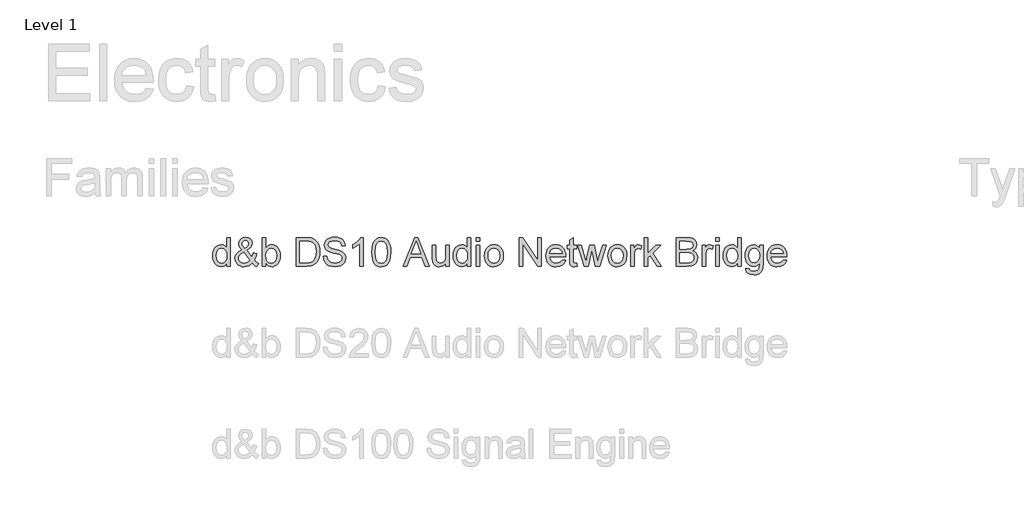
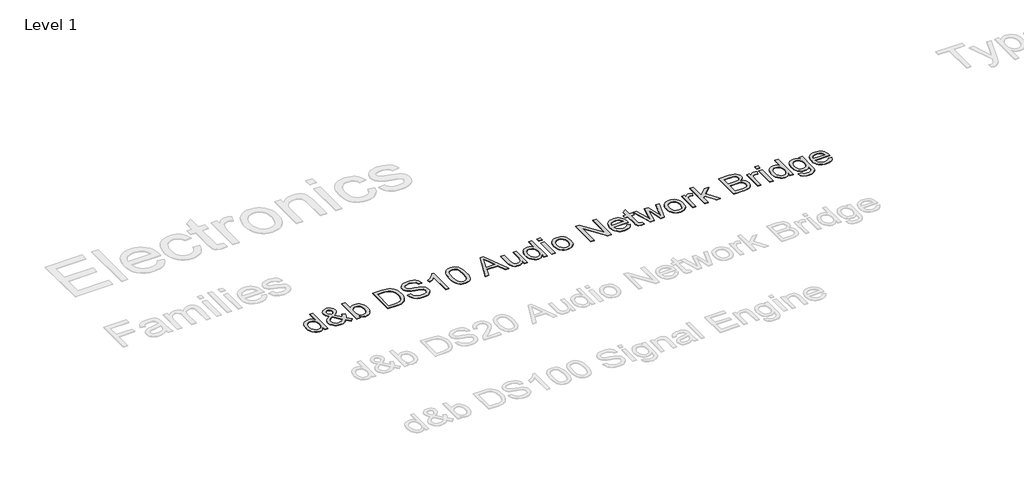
# One storey, part 4 of 14: 1 proxy.
"""IFC4 building model written with IfcOpenShell, lengths in millimetres."""

from ifc_helpers import new_model, si_unit, origin, origin_with_axes, place, context, project, spatial, polyline, outline, extrude, element, save

model = new_model("IFC4")

# Units and contexts
model_context = context("Model", 3, world=origin())
ifc_project = project(units=[si_unit("LENGTHUNIT", "METRE", prefix="MILLI")], contexts=[model_context])

# Site, building, storey
site = spatial("IfcSite", under=ifc_project)
building = spatial("IfcBuilding", under=site)
storey = spatial("IfcBuildingStorey", under=building, Name="Level 1", Elevation=0.0)

# Proxy
placement = place(None, origin())
element("IfcBuildingElementProxy", 1, Name="300mm Arial", ObjectType="300mm Arial", at=placement, inside=storey, context=model_context, shape_type="SweptSolid", body=[
    extrude(outline(polyline([(-19163.9314906, 1461.8556145), (-19163.9314906, 1497.3930152), (-19175.2024752, 1479.7852632), (-19188.8554958, 1467.2082975), (-19204.8905522, 1459.6621181), (-19223.3076446, 1457.146725), (-19247.6614327, 1460.7887567), (-19269.9550816, 1471.714852), (-19288.827428, 1489.1616556), (-19302.9173084, 1512.3658124), (-19311.691294, 1540.3892234), (-19314.6159558, 1572.2937895), (-19311.9212202, 1603.8028823), (-19303.8370134, 1632.2585547), (-19290.3725323, 1656.0421257), (-19271.5369742, 1673.5349145), (-19248.7558816, 1684.2954629), (-19223.4547974, 1687.8823123), (-19205.0239095, 1685.3163354), (-19188.7267371, 1677.6184047), (-19174.9127682, 1665.8185897), (-19163.9314906, 1650.94696), (-19163.9314906, 1763.224545), (-19126.2603743, 1763.224545), (-19126.2603743, 1461.8556145), (-19163.9314906, 1461.8556145)]), holes=[polyline([(-19276.9448395, 1572.4409423), (-19272.6958025, 1538.3658724), (-19259.9486913, 1514.131646), (-19241.4258329, 1499.6462925), (-19219.8495539, 1494.8178413), (-19198.2824719, 1499.4255633), (-19180.228663, 1513.2487292), (-19168.0057837, 1536.5448566), (-19163.9314906, 1569.5714627), (-19168.0793601, 1605.6790805), (-19180.5229686, 1630.7134503), (-19199.03663, 1645.3367596), (-19221.3946582, 1650.211196), (-19243.1916665, 1645.5298976), (-19261.0523373, 1631.4860025), (-19272.971714, 1607.3621406), (-19276.9448395, 1572.4409423)])]), origin_with_axes(), (0.0, 0.0, 1.0), 5.0),
    extrude(outline(polyline([(-18896.9227385, 1499.0852724), (-18916.0709963, 1480.7371579), (-18936.8747232, 1467.6313618), (-18959.3707072, 1459.7678842), (-18983.5957366, 1457.146725), (-19005.5766858, 1459.0873025), (-19025.166402, 1464.9090351), (-19042.3648853, 1474.6119227), (-19057.1721356, 1488.1959654), (-19073.6716431, 1514.9961687), (-19079.1714789, 1544.7762162), (-19074.7476979, 1571.1717494), (-19061.4763549, 1594.881744), (-19039.4126323, 1615.8878059), (-19008.6117122, 1634.171541), (-19034.9152749, 1672.2841157), (-19041.5003626, 1700.537453), (-19036.3132265, 1725.9764929), (-19020.7518181, 1747.8470776), (-18997.3361291, 1762.9118453), (-18968.5861512, 1767.9334345), (-18941.2341248, 1763.1325745), (-18919.3635402, 1748.7299943), (-18905.0161424, 1727.5951737), (-18900.2336765, 1702.5975921), (-18903.7745407, 1681.6099243), (-18914.3971333, 1662.2041491), (-18932.1014543, 1644.3802664), (-18956.8875037, 1628.1382763), (-18902.367392, 1560.22726), (-18893.0783716, 1579.6330353), (-18886.1070078, 1601.9450783), (-18848.4358915, 1593.778098), (-18860.0241744, 1558.8844907), (-18875.070548, 1531.7531936), (-18853.6598159, 1506.7740061), (-18829.6003334, 1486.1358262), (-18857.8536706, 1457.146725), (-18877.0755049, 1474.7314843), (-18896.9227385, 1499.0852724)]), holes=[polyline([(-18922.1594434, 1526.2349637), (-18989.4082721, 1610.185635), (-19015.0956324, 1593.7964921), (-19030.7949965, 1578.6213598), (-19038.8240211, 1564.1268092), (-19041.5003626, 1549.7794113), (-19037.8399368, 1532.010711), (-19026.8586592, 1513.579823), (-19009.1635352, 1499.5083367), (-18985.3615701, 1494.8178413), (-18968.3194367, 1497.0067391), (-18950.7438744, 1503.5734328), (-18934.6766283, 1513.6166112), (-18922.1594434, 1526.2349637)]), polyline([(-18975.9437911, 1651.9034532), (-18956.2437102, 1664.402244), (-18944.9681271, 1675.2639599), (-18939.6706263, 1685.8313702), (-18937.9047928, 1697.4472442), (-18940.2316464, 1710.6082226), (-18947.2122072, 1721.1020565), (-18957.6876471, 1727.9722528), (-18970.4991375, 1730.2623182), (-18983.5865395, 1727.9906469), (-18994.3011026, 1721.1756329), (-19001.4472104, 1711.0864692), (-19003.8292463, 1698.9923486), (-19000.5918847, 1685.1967738), (-18990.8062237, 1669.8560946), (-18975.9437911, 1651.9034532)])]), origin_with_axes(), (0.0, 0.0, 1.0), 5.0),
    extrude(outline(polyline([(-18754.2581008, 1461.8556145), (-18791.9292171, 1461.8556145), (-18791.9292171, 1763.224545), (-18754.2581008, 1763.224545), (-18754.2581008, 1651.4619948), (-18741.8696746, 1667.3958837), (-18727.8809617, 1678.777233), (-18712.2919622, 1685.6060425), (-18695.1026759, 1687.8823123), (-18675.6969007, 1685.8313702), (-18657.3579832, 1679.6785438), (-18641.1343873, 1669.8101093), (-18628.0745764, 1656.6123427), (-18617.8382599, 1640.2140028), (-18610.0851469, 1620.7438482), (-18605.2015134, 1599.0112194), (-18603.5736355, 1575.8254566), (-18605.2589949, 1549.0712385), (-18610.3150731, 1525.5359879), (-18618.7418701, 1505.2197047), (-18630.5393858, 1488.122389), (-18644.7005433, 1474.570536), (-18660.2182658, 1464.890641), (-18677.092553, 1459.082704), (-18695.3234051, 1457.146725), (-18713.0783099, 1459.643724), (-18728.8190608, 1467.1347211), (-18742.5456577, 1479.6197163), (-18754.2581008, 1497.0987096), (-18754.2581008, 1461.8556145)]), holes=[polyline([(-18754.2581008, 1574.059623), (-18751.6829268, 1542.6425006), (-18743.9574049, 1521.3789213), (-18734.8293329, 1509.7584488), (-18724.2205359, 1501.4581113), (-18712.1310138, 1496.4779088), (-18698.5607667, 1494.8178413), (-18676.8189408, 1499.7106718), (-18658.2409, 1514.3891634), (-18645.4937889, 1538.7613456), (-18641.2447519, 1572.7352478), (-18645.3190449, 1607.2057908), (-18657.5419242, 1631.3020615), (-18675.5405509, 1645.4839124), (-18696.9420859, 1650.211196), (-18718.6839118, 1645.3183655), (-18737.2619526, 1630.6398739), (-18750.0090637, 1606.7091501), (-18754.2581008, 1574.059623)])]), origin_with_axes(), (0.0, 0.0, 1.0), 5.0),
    extrude(outline(polyline([(-18438.7625017, 1461.8556145), (-18438.7625017, 1763.224545), (-18334.7990499, 1763.224545), (-18281.0147022, 1758.8835374), (-18256.9920079, 1750.514222), (-18236.72171, 1737.3256525), (-18215.8811949, 1714.369816), (-18201.0371564, 1685.8221732), (-18192.1528062, 1652.234547), (-18189.1913562, 1614.1587605), (-18191.1963131, 1581.8127361), (-18197.2111837, 1553.3478667), (-18206.3714454, 1529.1136403), (-18217.8125754, 1509.4595447), (-18230.9827508, 1493.9441215), (-18245.3301486, 1482.1259124), (-18261.802065, 1473.3611239), (-18281.345796, 1467.0059624), (-18329.7958547, 1461.8556145), (-18438.7625017, 1461.8556145)]), holes=[polyline([(-18401.0913854, 1499.5267308), (-18334.4311679, 1499.5267308), (-18306.8584123, 1500.8878942), (-18285.9443209, 1504.9713843), (-18270.1621833, 1511.538078), (-18257.9852893, 1520.3488517), (-18244.8978873, 1536.6552212), (-18235.066241, 1557.7624506), (-18228.9134146, 1583.7625107), (-18226.8624725, 1614.7473717), (-18230.8815833, 1655.8030024), (-18242.9389157, 1686.1164788), (-18260.7536013, 1706.9385997), (-18282.0447718, 1719.5201639), (-18303.7130213, 1724.0451125), (-18335.4612375, 1725.5534286), (-18401.0913854, 1725.5534286), (-18401.0913854, 1499.5267308)])]), origin_with_axes(), (0.0, 0.0, 1.0), 5.0),
    extrude(outline(polyline([(-18151.5202399, 1565.4511843), (-18113.8491236, 1565.4511843), (-18109.5265101, 1544.54629), (-18101.7090177, 1527.7432798), (-18089.5137296, 1514.4075575), (-18072.0577289, 1503.9045266), (-18050.7205732, 1497.0895126), (-18026.8818199, 1494.8178413), (-18005.8941521, 1496.5376896), (-17987.5184464, 1501.6972346), (-17972.6284227, 1509.8642149), (-17962.0978006, 1520.6063691), (-17955.8346096, 1532.939613), (-17953.7468793, 1545.8798622), (-17955.3103777, 1558.4890176), (-17960.0008732, 1569.3875217), (-17969.5290169, 1578.6857391), (-17985.60546, 1586.4940345), (-18040.4566655, 1600.8782205), (-18076.4631158, 1610.3971671), (-18099.5017258, 1619.4562612), (-18118.2545105, 1632.129796), (-18131.5442475, 1647.4888693), (-18139.4629075, 1665.2023873), (-18142.1024608, 1684.9392564), (-18138.8375081, 1707.002979), (-18129.04265, 1727.5767796), (-18112.9754038, 1745.0143862), (-18090.8932871, 1757.6695268), (-18064.3873893, 1765.3674576), (-18035.0488002, 1767.9334345), (-18003.2637958, 1765.2478959), (-17975.451917, 1757.1912802), (-17952.6064451, 1743.9291343), (-17935.7206615, 1725.627005), (-17925.0336895, 1703.4253266), (-17920.7846525, 1678.4645333), (-17958.4557688, 1678.4645333), (-17965.3719503, 1700.9421232), (-17979.7929245, 1717.1657192), (-18002.3256967, 1726.9881684), (-18033.5772722, 1730.2623182), (-18065.5646117, 1727.0249566), (-18087.5087727, 1717.312872), (-18100.2007015, 1703.0206564), (-18104.4313445, 1686.0429024), (-18101.4331062, 1671.5667459), (-18092.4383914, 1659.9232807), (-18071.1748121, 1649.5122202), (-18030.9285219, 1638.8804306), (-17989.3946446, 1628.7820698), (-17964.2683043, 1619.971296), (-17942.7931929, 1606.3044799), (-17927.8111986, 1589.4370904), (-17919.0096219, 1569.5530686), (-17916.075763, 1546.8363554), (-17919.4510803, 1523.6138044), (-17929.5770322, 1501.770811), (-17946.0397515, 1482.972041), (-17968.4253709, 1468.8821606), (-17995.3451359, 1460.0805839), (-18025.4102919, 1457.146725), (-18062.3180531, 1460.3105101), (-18092.6959088, 1469.8018656), (-18116.8933471, 1485.6575796), (-18135.2598557, 1507.9144403), (-18147.0504736, 1535.0273433), (-18151.5202399, 1565.4511843)])), origin_with_axes(), (0.0, 0.0, 1.0), 5.0),
    extrude(outline(polyline([(-17732.429071, 1461.8556145), (-17770.1001873, 1461.8556145), (-17770.1001873, 1696.7114802), (-17805.7847408, 1671.2908344), (-17845.4424199, 1652.2713352), (-17845.4424199, 1687.8823123), (-17815.8555104, 1703.9771496), (-17790.2233324, 1723.1254075), (-17770.0174138, 1743.4876759), (-17756.7092826, 1763.224545), (-17732.429071, 1763.224545), (-17732.429071, 1461.8556145)])), origin_with_axes(), (0.0, 0.0, 1.0), 5.0),
    extrude(outline(polyline([(-17642.9601697, 1610.1120586), (-17640.1918577, 1658.3505852), (-17631.8869217, 1696.8218448), (-17618.1281351, 1726.1144487), (-17598.9982713, 1746.817008), (-17574.3593747, 1759.1226607), (-17544.0734894, 1763.224545), (-17520.8601355, 1760.7965238), (-17500.0748028, 1753.5124603), (-17482.6923785, 1741.657463), (-17469.68775, 1725.5166404), (-17459.8653007, 1705.2279484), (-17452.0294142, 1680.9293426), (-17446.8974604, 1650.0732403), (-17445.1868091, 1610.1120586), (-17447.92753, 1562.1494434), (-17456.1496926, 1523.7701543), (-17469.8257058, 1494.4499593), (-17488.9279784, 1473.6646265), (-17513.6220573, 1461.2762004), (-17544.0734894, 1457.146725), (-17564.822034, 1458.9401497), (-17583.2161337, 1464.3204239), (-17599.2557887, 1473.2875475), (-17612.9409989, 1485.8415206), (-17626.0743862, 1508.5352412), (-17635.455377, 1536.811571), (-17641.0839716, 1570.6705102), (-17642.9601697, 1610.1120586)]), holes=[polyline([(-17605.2890534, 1610.185635), (-17600.8744695, 1550.9290426), (-17595.3562396, 1530.6610439), (-17587.6307177, 1516.6332436), (-17567.9122427, 1500.2716918), (-17544.0734894, 1494.8178413), (-17520.2347361, 1500.2900859), (-17500.5162612, 1516.70682), (-17492.7907393, 1530.7576129), (-17487.2725094, 1551.0210131), (-17482.8579254, 1610.185635), (-17487.1253566, 1668.1086551), (-17492.4596455, 1688.3099752), (-17499.92765, 1702.6711685), (-17519.6093368, 1719.8328636), (-17544.5149478, 1725.5534286), (-17568.0961837, 1720.5134453), (-17587.0421065, 1705.3934953), (-17595.0251458, 1689.7585105), (-17600.7273167, 1668.6788722), (-17605.2890534, 1610.185635)])]), origin_with_axes(), (0.0, 0.0, 1.0), 5.0),
    extrude(outline(polyline([(-17315.3980412, 1461.8556145), (-17195.1006288, 1763.224545), (-17163.0213188, 1763.224545), (-17042.7974828, 1461.8556145), (-17082.6023147, 1461.8556145), (-17117.0360694, 1556.0334053), (-17241.233031, 1556.0334053), (-17275.6667858, 1461.8556145), (-17315.3980412, 1461.8556145)]), holes=[polyline([(-17227.400668, 1593.7045216), (-17130.7948561, 1593.7045216), (-17158.0181237, 1667.7959554), (-17179.1345502, 1725.5534286), (-17197.896532, 1674.2706785), (-17227.400668, 1593.7045216)])]), origin_with_axes(), (0.0, 0.0, 1.0), 5.0),
    extrude(outline(polyline([(-16865.9933959, 1461.8556145), (-16865.9933959, 1499.8946128), (-16879.6234238, 1481.1924119), (-16895.4975319, 1467.8336969), (-16913.6157202, 1459.818468), (-16933.9779886, 1457.146725), (-16952.3261031, 1459.0229231), (-16969.4050248, 1464.6515177), (-16983.7340285, 1473.1128036), (-16993.8323892, 1483.4870758), (-17005.0527901, 1511.2253783), (-17007.2600821, 1546.2477442), (-17007.2600821, 1683.1734228), (-16969.5889658, 1683.1734228), (-16969.5889658, 1563.9796564), (-16967.3080974, 1525.5727761), (-16961.8174586, 1512.7612856), (-16952.4088766, 1503.0216098), (-16939.7077507, 1496.8687834), (-16924.3394804, 1494.8178413), (-16908.0882932, 1496.9147686), (-16892.8855698, 1503.2055508), (-16880.3499908, 1513.1107735), (-16872.100237, 1526.0510227), (-16867.5201062, 1543.7737378), (-16865.9933959, 1568.0263583), (-16865.9933959, 1683.1734228), (-16828.3222796, 1683.1734228), (-16828.3222796, 1461.8556145), (-16865.9933959, 1461.8556145)])), origin_with_axes(), (0.0, 0.0, 1.0), 5.0),
    extrude(outline(polyline([(-16639.9666981, 1461.8556145), (-16639.9666981, 1497.3930152), (-16651.2376827, 1479.7852632), (-16664.8907033, 1467.2082975), (-16680.9257597, 1459.6621181), (-16699.3428521, 1457.146725), (-16723.6966402, 1460.7887567), (-16745.9902891, 1471.714852), (-16764.8626355, 1489.1616556), (-16778.9525159, 1512.3658124), (-16787.7265015, 1540.3892234), (-16790.6511633, 1572.2937895), (-16787.9564277, 1603.8028823), (-16779.8722209, 1632.2585547), (-16766.4077398, 1656.0421257), (-16747.5721817, 1673.5349145), (-16724.7910891, 1684.2954629), (-16699.4900049, 1687.8823123), (-16681.059117, 1685.3163354), (-16664.7619446, 1677.6184047), (-16650.9479756, 1665.8185897), (-16639.9666981, 1650.94696), (-16639.9666981, 1763.224545), (-16602.2955818, 1763.224545), (-16602.2955818, 1461.8556145), (-16639.9666981, 1461.8556145)]), holes=[polyline([(-16752.980047, 1572.4409423), (-16748.73101, 1538.3658724), (-16735.9838988, 1514.131646), (-16717.4610404, 1499.6462925), (-16695.8847614, 1494.8178413), (-16674.3176794, 1499.4255633), (-16656.2638705, 1513.2487292), (-16644.0409912, 1536.5448566), (-16639.9666981, 1569.5714627), (-16644.1145676, 1605.6790805), (-16656.5581761, 1630.7134503), (-16675.0718375, 1645.3367596), (-16697.4298657, 1650.211196), (-16719.2268739, 1645.5298976), (-16737.0875448, 1631.4860025), (-16749.0069215, 1607.3621406), (-16752.980047, 1572.4409423)])]), origin_with_axes(), (0.0, 0.0, 1.0), 5.0),
    extrude(outline(polyline([(-16545.7889073, 1461.8556145), (-16545.7889073, 1683.1734228), (-16508.117791, 1683.1734228), (-16508.117791, 1461.8556145), (-16545.7889073, 1461.8556145)])), origin_with_axes(), (0.0, 0.0, 1.0), 5.0),
    extrude(outline(polyline([(-16545.7889073, 1725.5534286), (-16545.7889073, 1763.224545), (-16508.117791, 1763.224545), (-16508.117791, 1725.5534286), (-16545.7889073, 1725.5534286)])), origin_with_axes(), (0.0, 0.0, 1.0), 5.0),
    extrude(outline(polyline([(-16461.0288956, 1572.5145187), (-16458.9917491, 1601.1771246), (-16452.8803094, 1625.8758021), (-16442.6945767, 1646.610551), (-16428.4345509, 1663.3813715), (-16414.077956, 1674.1005331), (-16398.2314391, 1681.7570771), (-16380.895, 1686.3510035), (-16362.0686389, 1687.8823123), (-16341.2856055, 1686.0176105), (-16322.4937333, 1680.4235049), (-16305.6930224, 1671.0999956), (-16290.8834729, 1658.0470825), (-16278.7962501, 1641.7062242), (-16270.1625195, 1622.5188788), (-16264.9822811, 1600.4850466), (-16263.255535, 1575.6047274), (-16266.3089556, 1537.547335), (-16275.4692173, 1508.5766279), (-16290.4696056, 1486.8807872), (-16311.0434062, 1470.6479942), (-16335.4799677, 1460.5220423), (-16362.0686389, 1457.146725), (-16383.155175, 1459.004529), (-16402.1217912, 1464.5779413), (-16418.9684873, 1473.8669616), (-16433.6952634, 1486.8715902), (-16445.6537275, 1503.3710977), (-16454.1954876, 1523.1447549), (-16459.3205436, 1546.1925619), (-16461.0288956, 1572.5145187)]), holes=[polyline([(-16423.3577793, 1572.5880951), (-16418.9983777, 1538.4946311), (-16405.9201728, 1514.2052224), (-16386.238486, 1499.6646866), (-16362.0686389, 1494.8178413), (-16338.0091564, 1499.6922777), (-16318.3642579, 1514.315587), (-16305.286053, 1538.9268925), (-16300.9266513, 1573.7653174), (-16305.3136441, 1606.8655), (-16318.4746225, 1630.8238149), (-16338.1471122, 1645.3643507), (-16362.0686389, 1650.211196), (-16386.238486, 1645.3827448), (-16405.9201728, 1630.8973913), (-16418.9983777, 1606.6631649), (-16423.3577793, 1572.5880951)])]), origin_with_axes(), (0.0, 0.0, 1.0), 5.0),
    extrude(outline(polyline([(-16098.4444012, 1461.8556145), (-16098.4444012, 1763.224545), (-16058.1245345, 1763.224545), (-15900.6710406, 1524.4691301), (-15900.6710406, 1763.224545), (-15862.9999243, 1763.224545), (-15862.9999243, 1461.8556145), (-15903.3197909, 1461.8556145), (-16060.7732849, 1700.6846058), (-16060.7732849, 1461.8556145), (-16098.4444012, 1461.8556145)])), origin_with_axes(), (0.0, 0.0, 1.0), 5.0),
    extrude(outline(polyline([(-15646.8324639, 1527.780068), (-15609.8971116, 1523.0711785), (-15623.2052428, 1495.2409056), (-15644.4412309, 1474.4371787), (-15673.1268295, 1461.4693384), (-15708.7837919, 1457.146725), (-15732.1580942, 1459.0114268), (-15752.9848136, 1464.6055324), (-15771.2639503, 1473.9290417), (-15786.9955041, 1486.9819548), (-15799.6460462, 1503.4009881), (-15808.6821477, 1522.8228582), (-15814.1038086, 1545.247565), (-15815.9110289, 1570.6751087), (-15814.0854145, 1596.9648758), (-15808.6085713, 1620.1368429), (-15799.4804993, 1640.1910102), (-15786.7011985, 1657.1273775), (-15771.0110314, 1670.5826615), (-15753.1503605, 1680.1935786), (-15733.1191859, 1685.9601289), (-15710.9175075, 1687.8823123), (-15689.4308997, 1685.9647274), (-15669.9998326, 1680.2119727), (-15652.6243061, 1670.6240482), (-15637.3043202, 1657.2009539), (-15624.7986317, 1640.3013748), (-15615.865997, 1620.2839957), (-15610.5064161, 1597.1488168), (-15608.7198892, 1570.8958379), (-15608.9406184, 1560.7422948), (-15778.2399126, 1560.7422948), (-15771.7192042, 1532.5441399), (-15756.5716631, 1511.8139894), (-15734.7102755, 1499.0668783), (-15708.0480279, 1494.8178413), (-15687.9984592, 1496.7860099), (-15671.1126756, 1502.690516), (-15657.3906772, 1512.8992413), (-15646.8324639, 1527.780068)]), holes=[polyline([(-15778.2399126, 1598.4134111), (-15646.3910055, 1598.4134111), (-15651.4861711, 1618.3158271), (-15661.4741673, 1632.5528603), (-15683.4367224, 1645.7966121), (-15711.0646603, 1650.211196), (-15736.457715, 1646.6887259), (-15757.4545799, 1636.1213156), (-15772.050298, 1619.6493993), (-15778.2399126, 1598.4134111)])]), origin_with_axes(), (0.0, 0.0, 1.0), 5.0),
    extrude(outline(polyline([(-15490.9976508, 1493.2727369), (-15486.2887612, 1460.7519685), (-15514.468522, 1457.146725), (-15532.5499221, 1458.7102234), (-15546.0327972, 1463.4007189), (-15555.5609409, 1470.6296001), (-15561.7781466, 1479.8082559), (-15565.1994492, 1495.5719994), (-15566.3398834, 1522.5561437), (-15566.3398834, 1645.5023065), (-15594.5932206, 1645.5023065), (-15594.5932206, 1683.1734228), (-15566.3398834, 1683.1734228), (-15566.3398834, 1736.9577705), (-15528.6687671, 1759.1042666), (-15528.6687671, 1683.1734228), (-15490.9976508, 1683.1734228), (-15490.9976508, 1645.5023065), (-15528.6687671, 1645.5023065), (-15528.6687671, 1523.6597897), (-15526.6822043, 1504.2356203), (-15520.2442694, 1497.356227), (-15507.4051877, 1494.8178413), (-15490.9976508, 1493.2727369)])), origin_with_axes(), (0.0, 0.0, 1.0), 5.0),
    extrude(outline(polyline([(-15416.3176057, 1461.8556145), (-15483.9343164, 1683.1734228), (-15444.8652486, 1683.1734228), (-15406.6055211, 1554.0468425), (-15395.2011792, 1507.9144403), (-15385.8569765, 1552.3545853), (-15355.4699237, 1683.1734228), (-15310.7354731, 1683.1734228), (-15280.3484203, 1552.7224673), (-15272.0342872, 1512.476177), (-15260.1149106, 1554.9297593), (-15221.8551831, 1683.1734228), (-15182.565386, 1683.1734228), (-15250.4028259, 1461.8556145), (-15295.8730405, 1461.8556145), (-15324.8621417, 1591.6443824), (-15333.2498512, 1632.1114019), (-15370.5530855, 1461.8556145), (-15416.3176057, 1461.8556145)])), origin_with_axes(), (0.0, 0.0, 1.0), 5.0),
    extrude(outline(polyline([(-15166.0842726, 1572.5145187), (-15164.0471261, 1601.1771246), (-15157.9356864, 1625.8758021), (-15147.7499537, 1646.610551), (-15133.4899278, 1663.3813715), (-15119.133333, 1674.1005331), (-15103.286816, 1681.7570771), (-15085.950377, 1686.3510035), (-15067.1240159, 1687.8823123), (-15046.3409824, 1686.0176105), (-15027.5491103, 1680.4235049), (-15010.7483994, 1671.0999956), (-14995.9388498, 1658.0470825), (-14983.851627, 1641.7062242), (-14975.2178965, 1622.5188788), (-14970.0376581, 1600.4850466), (-14968.310912, 1575.6047274), (-14971.3643326, 1537.547335), (-14980.5245942, 1508.5766279), (-14995.5249826, 1486.8807872), (-15016.0987832, 1470.6479942), (-15040.5353447, 1460.5220423), (-15067.1240159, 1457.146725), (-15088.210552, 1459.004529), (-15107.1771681, 1464.5779413), (-15124.0238643, 1473.8669616), (-15138.7506404, 1486.8715902), (-15150.7091045, 1503.3710977), (-15159.2508646, 1523.1447549), (-15164.3759206, 1546.1925619), (-15166.0842726, 1572.5145187)]), holes=[polyline([(-15128.4131563, 1572.5880951), (-15124.0537547, 1538.4946311), (-15110.9755497, 1514.2052224), (-15091.293863, 1499.6646866), (-15067.1240159, 1494.8178413), (-15043.0645334, 1499.6922777), (-15023.4196349, 1514.315587), (-15010.34143, 1538.9268925), (-15005.9820283, 1573.7653174), (-15010.3690211, 1606.8655), (-15023.5299995, 1630.8238149), (-15043.2024892, 1645.3643507), (-15067.1240159, 1650.211196), (-15091.293863, 1645.3827448), (-15110.9755497, 1630.8973913), (-15124.0537547, 1606.6631649), (-15128.4131563, 1572.5880951)])]), origin_with_axes(), (0.0, 0.0, 1.0), 5.0),
    extrude(outline(polyline([(-14925.9309062, 1461.8556145), (-14925.9309062, 1683.1734228), (-14892.9686794, 1683.1734228), (-14892.9686794, 1650.4319252), (-14880.7917854, 1669.4146362), (-14869.5713845, 1680.5982488), (-14858.3141954, 1686.0612965), (-14846.0269368, 1687.8823123), (-14827.2649551, 1684.9760446), (-14808.2086677, 1676.2572413), (-14820.7902319, 1642.4856741), (-14834.0339838, 1648.2798156), (-14847.2777356, 1650.211196), (-14858.5257276, 1648.353392), (-14868.5781031, 1642.7799797), (-14876.6990982, 1633.9140236), (-14882.1529487, 1622.178588), (-14886.7330796, 1601.1357379), (-14888.2597899, 1578.1799014), (-14888.2597899, 1461.8556145), (-14925.9309062, 1461.8556145)])), origin_with_axes(), (0.0, 0.0, 1.0), 5.0),
    extrude(outline(polyline([(-14784.66422, 1461.8556145), (-14784.66422, 1763.224545), (-14746.9931037, 1763.224545), (-14746.9931037, 1601.2828907), (-14662.5273976, 1683.1734228), (-14610.4353071, 1683.1734228), (-14696.0046592, 1600.2528211), (-14605.7264176, 1461.8556145), (-14649.7251042, 1461.8556145), (-14723.0071976, 1574.059623), (-14746.9931037, 1550.7359045), (-14746.9931037, 1461.8556145), (-14784.66422, 1461.8556145)])), origin_with_axes(), (0.0, 0.0, 1.0), 5.0),
    extrude(outline(polyline([(-14450.3330628, 1461.8556145), (-14450.3330628, 1763.224545), (-14335.3331511, 1763.224545), (-14303.7044966, 1761.0080559), (-14279.0104176, 1754.3585889), (-14260.082889, 1743.1105969), (-14245.7538853, 1727.098533), (-14236.7315793, 1708.2629749), (-14233.724144, 1688.5444999), (-14236.2533328, 1670.3987205), (-14243.8408989, 1653.338193), (-14256.5420248, 1638.411381), (-14274.4118927, 1626.6667483), (-14253.0655399, 1615.5199239), (-14237.2925994, 1598.5605639), (-14227.5529236, 1576.9107085), (-14224.306365, 1551.6923977), (-14226.522854, 1530.6771387), (-14233.172321, 1511.1885901), (-14243.0959379, 1494.6155062), (-14255.1348762, 1482.3466416), (-14269.8777471, 1473.4622915), (-14287.9131619, 1467.0427506), (-14336.2160679, 1461.8556145), (-14450.3330628, 1461.8556145)]), holes=[polyline([(-14412.6619465, 1499.5267308), (-14335.4067275, 1499.5267308), (-14307.4476959, 1500.9982588), (-14283.7928836, 1509.2020273), (-14268.1211106, 1525.9406581), (-14263.5133886, 1537.7680642), (-14261.9774813, 1551.3245157), (-14263.780103, 1567.0698651), (-14269.1879684, 1580.6079225), (-14278.6333386, 1591.193727), (-14292.5484751, 1598.0823173), (-14312.257753, 1601.8623048), (-14339.0855475, 1603.1223007), (-14412.6619465, 1603.1223007), (-14412.6619465, 1499.5267308)]), polyline([(-14412.6619465, 1640.793417), (-14343.8680134, 1640.793417), (-14303.6952995, 1644.0307785), (-14289.6330103, 1649.6133878), (-14279.5254524, 1657.9735061), (-14273.4278084, 1668.9823748), (-14271.3952603, 1682.5112352), (-14273.2898526, 1695.6446224), (-14278.9736294, 1707.0857525), (-14288.1890734, 1716.0160879), (-14300.6786672, 1721.6170913), (-14349.0919377, 1725.5534286), (-14412.6619465, 1725.5534286), (-14412.6619465, 1640.793417)])]), origin_with_axes(), (0.0, 0.0, 1.0), 5.0),
    extrude(outline(polyline([(-14177.2174696, 1461.8556145), (-14177.2174696, 1683.1734228), (-14144.2552428, 1683.1734228), (-14144.2552428, 1650.4319252), (-14132.0783488, 1669.4146362), (-14120.8579479, 1680.5982488), (-14109.6007589, 1686.0612965), (-14097.3135002, 1687.8823123), (-14078.5515185, 1684.9760446), (-14059.4952311, 1676.2572413), (-14072.0767954, 1642.4856741), (-14085.3205472, 1648.2798156), (-14098.564299, 1650.211196), (-14109.812291, 1648.353392), (-14119.8646665, 1642.7799797), (-14127.9856616, 1633.9140236), (-14133.4395122, 1622.178588), (-14138.019643, 1601.1357379), (-14139.5463533, 1578.1799014), (-14139.5463533, 1461.8556145), (-14177.2174696, 1461.8556145)])), origin_with_axes(), (0.0, 0.0, 1.0), 5.0),
    extrude(outline(polyline([(-14035.9507834, 1461.8556145), (-14035.9507834, 1683.1734228), (-13998.2796671, 1683.1734228), (-13998.2796671, 1461.8556145), (-14035.9507834, 1461.8556145)])), origin_with_axes(), (0.0, 0.0, 1.0), 5.0),
    extrude(outline(polyline([(-14035.9507834, 1725.5534286), (-14035.9507834, 1763.224545), (-13998.2796671, 1763.224545), (-13998.2796671, 1725.5534286), (-14035.9507834, 1725.5534286)])), origin_with_axes(), (0.0, 0.0, 1.0), 5.0),
    extrude(outline(polyline([(-13805.2151961, 1461.8556145), (-13805.2151961, 1497.3930152), (-13816.4861807, 1479.7852632), (-13830.1392012, 1467.2082975), (-13846.1742577, 1459.6621181), (-13864.5913501, 1457.146725), (-13888.9451382, 1460.7887567), (-13911.2387871, 1471.714852), (-13930.1111334, 1489.1616556), (-13944.2010138, 1512.3658124), (-13952.9749994, 1540.3892234), (-13955.8996613, 1572.2937895), (-13953.2049257, 1603.8028823), (-13945.1207188, 1632.2585547), (-13931.6562378, 1656.0421257), (-13912.8206796, 1673.5349145), (-13890.0395871, 1684.2954629), (-13864.7385029, 1687.8823123), (-13846.3076149, 1685.3163354), (-13830.0104425, 1677.6184047), (-13816.1964736, 1665.8185897), (-13805.2151961, 1650.94696), (-13805.2151961, 1763.224545), (-13767.5440797, 1763.224545), (-13767.5440797, 1461.8556145), (-13805.2151961, 1461.8556145)]), holes=[polyline([(-13918.228545, 1572.4409423), (-13913.9795079, 1538.3658724), (-13901.2323968, 1514.131646), (-13882.7095383, 1499.6462925), (-13861.1332593, 1494.8178413), (-13839.5661774, 1499.4255633), (-13821.5123684, 1513.2487292), (-13809.2894892, 1536.5448566), (-13805.2151961, 1569.5714627), (-13809.3630656, 1605.6790805), (-13821.806674, 1630.7134503), (-13840.3203354, 1645.3367596), (-13862.6783637, 1650.211196), (-13884.4753719, 1645.5298976), (-13902.3360428, 1631.4860025), (-13914.2554194, 1607.3621406), (-13918.228545, 1572.4409423)])]), origin_with_axes(), (0.0, 0.0, 1.0), 5.0),
    extrude(outline(polyline([(-13720.4551844, 1443.0200563), (-13682.7840681, 1438.3111668), (-13678.6270015, 1426.538943), (-13670.5703858, 1418.4455391), (-13654.7330659, 1412.154757), (-13634.0029155, 1410.0578296), (-13611.8932076, 1412.4306685), (-13595.4488824, 1419.5491851), (-13584.0445406, 1430.9535269), (-13577.0547826, 1446.1838415), (-13574.4796087, 1490.1089517), (-13587.0151877, 1477.7481167), (-13601.0039005, 1468.9189488), (-13616.4457473, 1463.6214481), (-13633.3407279, 1461.8556145), (-13653.9950027, 1463.9111552), (-13672.1798695, 1470.0777771), (-13687.8953285, 1480.3554803), (-13701.1413796, 1494.7442649), (-13711.6513084, 1512.0071275), (-13719.1584003, 1530.907065), (-13723.6626555, 1551.4440774), (-13725.1640739, 1573.6181646), (-13722.4693383, 1604.0328086), (-13714.3851314, 1632.0010373), (-13701.1965619, 1655.7018348), (-13683.1887383, 1673.3141853), (-13660.9778628, 1684.2402806), (-13635.1801379, 1687.8823123), (-13617.5631888, 1685.8221732), (-13601.5741176, 1679.6417556), (-13587.2129242, 1669.3410598), (-13574.4796087, 1654.9200856), (-13574.4796087, 1683.1734228), (-13536.8084924, 1683.1734228), (-13536.8084924, 1492.0955145), (-13539.3836663, 1447.9772662), (-13547.1091882, 1418.9237857), (-13560.4173194, 1399.6559662), (-13579.7403212, 1384.8947011), (-13604.6551293, 1375.5137102), (-13634.7386795, 1372.3867133), (-13669.7886366, 1376.7921002), (-13697.3889833, 1390.0082608), (-13707.7839489, 1399.9295784), (-13715.0933043, 1412.0719835), (-13719.3170494, 1426.4354762), (-13720.4551844, 1443.0200563)]), holes=[polyline([(-13687.4929576, 1576.1933386), (-13683.4738468, 1541.6400222), (-13671.4165144, 1517.8840424), (-13653.2891291, 1504.1160587), (-13631.0598595, 1499.5267308), (-13608.9961369, 1504.0884675), (-13590.7767811, 1517.7736778), (-13578.5539018, 1541.226155), (-13574.4796087, 1575.0896926), (-13578.6734634, 1607.7484167), (-13591.2550277, 1631.2652733), (-13609.7410979, 1645.4747153), (-13631.6484707, 1650.211196), (-13653.1603704, 1645.5482917), (-13671.1957852, 1631.5595789), (-13683.4186645, 1608.3922102), (-13687.4929576, 1576.1933386)])]), origin_with_axes(), (0.0, 0.0, 1.0), 5.0),
    extrude(outline(polyline([(-13325.3499215, 1527.780068), (-13288.4145692, 1523.0711785), (-13301.7227004, 1495.2409056), (-13322.9586886, 1474.4371787), (-13351.6442872, 1461.4693384), (-13387.3012495, 1457.146725), (-13410.6755518, 1459.0114268), (-13431.5022713, 1464.6055324), (-13449.7814079, 1473.9290417), (-13465.5129617, 1486.9819548), (-13478.1635038, 1503.4009881), (-13487.1996053, 1522.8228582), (-13492.6212662, 1545.247565), (-13494.4284865, 1570.6751087), (-13492.6028721, 1596.9648758), (-13487.1260289, 1620.1368429), (-13477.9979569, 1640.1910102), (-13465.2186561, 1657.1273775), (-13449.528489, 1670.5826615), (-13431.6678182, 1680.1935786), (-13411.6366435, 1685.9601289), (-13389.4349651, 1687.8823123), (-13367.9483573, 1685.9647274), (-13348.5172902, 1680.2119727), (-13331.1417637, 1670.6240482), (-13315.8217779, 1657.2009539), (-13303.3160893, 1640.3013748), (-13294.3834546, 1620.2839957), (-13289.0238738, 1597.1488168), (-13287.2373468, 1570.8958379), (-13287.458076, 1560.7422948), (-13456.7573702, 1560.7422948), (-13450.2366619, 1532.5441399), (-13435.0891207, 1511.8139894), (-13413.2277331, 1499.0668783), (-13386.5654855, 1494.8178413), (-13366.5159168, 1496.7860099), (-13349.6301332, 1502.690516), (-13335.9081348, 1512.8992413), (-13325.3499215, 1527.780068)]), holes=[polyline([(-13456.7573702, 1598.4134111), (-13324.9084632, 1598.4134111), (-13330.0036288, 1618.3158271), (-13339.991625, 1632.5528603), (-13361.9541801, 1645.7966121), (-13389.5821179, 1650.211196), (-13414.9751726, 1646.6887259), (-13435.9720375, 1636.1213156), (-13450.5677557, 1619.6493993), (-13456.7573702, 1598.4134111)])]), origin_with_axes(), (0.0, 0.0, 1.0), 5.0),
])

save(model, "model.ifc")
